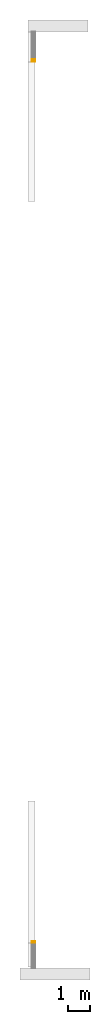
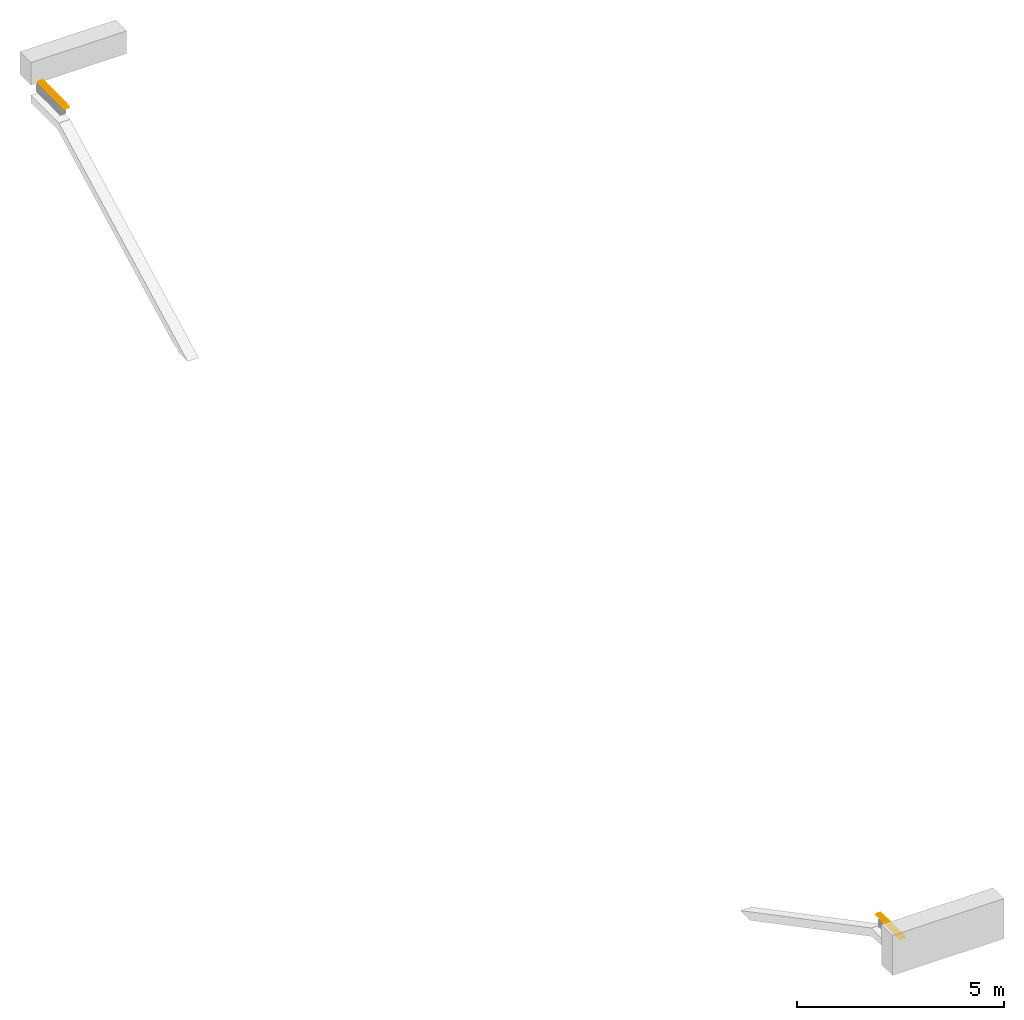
# One storey, part 3 of 3: 1 covering.
"""IFC2X3 building model written with IfcOpenShell, lengths in millimetres."""

from ifc_helpers import new_model, entity, si_unit, converted_unit, derived_unit, direction, frame, frame_2d, origin, place, context, subcontext, project, spatial, rectangle, extrude, material, layer, layer_set, layer_usage, type_object, element, save


model = new_model("IFC2X3")

# Units and contexts
model_context = context("Model", 3, precision=0.01, world=origin(), true_north=direction((6.123031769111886e-17, 1.0)))
body_context = subcontext(model_context, "Body", "Model", "MODEL_VIEW")
ifc_project = project(units=[si_unit("LENGTHUNIT", "METRE", prefix="MILLI"), si_unit("AREAUNIT", "SQUARE_METRE"), si_unit("VOLUMEUNIT", "CUBIC_METRE"), converted_unit("PLANEANGLEUNIT", "DEGREE", entity("IfcPlaneAngleMeasure", 0.017453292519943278), si_unit("PLANEANGLEUNIT", "RADIAN"), dimensions=[0, 0, 0, 0, 0, 0, 0]), si_unit("MASSUNIT", "GRAM", prefix="KILO"), derived_unit("MASSDENSITYUNIT", [(si_unit("MASSUNIT", "GRAM", prefix="KILO"), 1), (si_unit("LENGTHUNIT", "METRE"), -3)]), derived_unit("IONCONCENTRATIONUNIT", [(si_unit("MASSUNIT", "GRAM", prefix="KILO"), 1), (si_unit("LENGTHUNIT", "METRE"), -3)]), derived_unit("MOMENTOFINERTIAUNIT", [(si_unit("LENGTHUNIT", "METRE"), 4)]), si_unit("TIMEUNIT", "SECOND"), si_unit("FREQUENCYUNIT", "HERTZ"), si_unit("THERMODYNAMICTEMPERATUREUNIT", "DEGREE_CELSIUS"), derived_unit("THERMALTRANSMITTANCEUNIT", [(si_unit("MASSUNIT", "GRAM", prefix="KILO"), 1), (si_unit("THERMODYNAMICTEMPERATUREUNIT", "KELVIN"), -1), (si_unit("TIMEUNIT", "SECOND"), -3)]), derived_unit("THERMALCONDUCTANCEUNIT", [(si_unit("MASSUNIT", "GRAM", prefix="KILO"), 1), (si_unit("THERMODYNAMICTEMPERATUREUNIT", "KELVIN"), -1), (si_unit("TIMEUNIT", "SECOND"), -3), (si_unit("LENGTHUNIT", "METRE"), 1)]), derived_unit("VOLUMETRICFLOWRATEUNIT", [(si_unit("LENGTHUNIT", "METRE", prefix="DECI"), 3), (si_unit("TIMEUNIT", "SECOND"), -1)]), derived_unit("MASSFLOWRATEUNIT", [(si_unit("MASSUNIT", "GRAM", prefix="KILO"), 1), (si_unit("TIMEUNIT", "SECOND"), -1)]), derived_unit("ROTATIONALFREQUENCYUNIT", [(si_unit("TIMEUNIT", "SECOND"), -1)]), si_unit("ELECTRICCURRENTUNIT", "AMPERE"), si_unit("ELECTRICVOLTAGEUNIT", "VOLT"), si_unit("POWERUNIT", "WATT"), si_unit("FORCEUNIT", "NEWTON", prefix="KILO"), si_unit("ILLUMINANCEUNIT", "LUX"), si_unit("LUMINOUSFLUXUNIT", "LUMEN"), si_unit("LUMINOUSINTENSITYUNIT", "CANDELA"), si_unit("ENERGYUNIT", "JOULE"), derived_unit("USERDEFINED", [(si_unit("MASSUNIT", "GRAM", prefix="KILO"), -1), (si_unit("LENGTHUNIT", "METRE"), -2), (si_unit("TIMEUNIT", "SECOND"), 3), (si_unit("LUMINOUSFLUXUNIT", "LUMEN"), 1)]), derived_unit("USERDEFINED", [(si_unit("MASSUNIT", "GRAM", prefix="KILO"), 1), (si_unit("TIMEUNIT", "SECOND"), -3), (si_unit("LENGTHUNIT", "METRE"), 3), (si_unit("ELECTRICCURRENTUNIT", "AMPERE"), -2)]), derived_unit("SOUNDPOWERUNIT", [(si_unit("MASSUNIT", "GRAM", prefix="KILO"), 1), (si_unit("TIMEUNIT", "SECOND"), -3), (si_unit("LENGTHUNIT", "METRE"), 2)]), derived_unit("SOUNDPRESSUREUNIT", [(si_unit("MASSUNIT", "GRAM", prefix="KILO"), 1), (si_unit("LENGTHUNIT", "METRE"), -1), (si_unit("TIMEUNIT", "SECOND"), -2)]), derived_unit("LINEARVELOCITYUNIT", [(si_unit("LENGTHUNIT", "METRE"), 1), (si_unit("TIMEUNIT", "SECOND"), -1)]), si_unit("PRESSUREUNIT", "PASCAL"), derived_unit("USERDEFINED", [(si_unit("MASSUNIT", "GRAM", prefix="KILO"), 1), (si_unit("LENGTHUNIT", "METRE"), -2), (si_unit("TIMEUNIT", "SECOND"), -2)]), derived_unit("LINEARFORCEUNIT", [(si_unit("MASSUNIT", "GRAM", prefix="KILO"), 1), (si_unit("TIMEUNIT", "SECOND"), -2)]), derived_unit("PLANARFORCEUNIT", [(si_unit("MASSUNIT", "GRAM", prefix="KILO"), 1), (si_unit("LENGTHUNIT", "METRE"), -1), (si_unit("TIMEUNIT", "SECOND"), -2)]), derived_unit("SPECIFICHEATCAPACITYUNIT", [(si_unit("THERMODYNAMICTEMPERATUREUNIT", "KELVIN"), -1), (si_unit("LENGTHUNIT", "METRE"), 2), (si_unit("TIMEUNIT", "SECOND"), -2)]), derived_unit("HEATFLUXDENSITYUNIT", [(si_unit("MASSUNIT", "GRAM", prefix="KILO"), 1), (si_unit("TIMEUNIT", "SECOND"), -3)]), derived_unit("HEATINGVALUEUNIT", [(si_unit("LENGTHUNIT", "METRE"), 2), (si_unit("TIMEUNIT", "SECOND"), -2)]), derived_unit("VAPORPERMEABILITYUNIT", [(si_unit("LENGTHUNIT", "METRE"), -1), (si_unit("TIMEUNIT", "SECOND"), 1)]), derived_unit("DYNAMICVISCOSITYUNIT", [(si_unit("MASSUNIT", "GRAM", prefix="KILO"), 1), (si_unit("TIMEUNIT", "SECOND"), -1), (si_unit("LENGTHUNIT", "METRE"), -1)]), derived_unit("THERMALEXPANSIONCOEFFICIENTUNIT", [(si_unit("THERMODYNAMICTEMPERATUREUNIT", "KELVIN"), -1)]), derived_unit("MODULUSOFELASTICITYUNIT", [(si_unit("MASSUNIT", "GRAM", prefix="KILO"), 1), (si_unit("LENGTHUNIT", "METRE"), -1), (si_unit("TIMEUNIT", "SECOND"), -2)]), derived_unit("ISOTHERMALMOISTURECAPACITYUNIT", [(si_unit("MASSUNIT", "GRAM", prefix="KILO"), -1), (si_unit("LENGTHUNIT", "METRE"), 3)]), derived_unit("MOISTUREDIFFUSIVITYUNIT", [(si_unit("TIMEUNIT", "SECOND"), -1), (si_unit("LENGTHUNIT", "METRE"), 2)]), derived_unit("MASSPERLENGTHUNIT", [(si_unit("MASSUNIT", "GRAM", prefix="KILO"), 1), (si_unit("LENGTHUNIT", "METRE"), -1)]), derived_unit("THERMALRESISTANCEUNIT", [(si_unit("MASSUNIT", "GRAM", prefix="KILO"), -1), (si_unit("TIMEUNIT", "SECOND"), 3), (si_unit("THERMODYNAMICTEMPERATUREUNIT", "KELVIN"), 1)]), derived_unit("ACCELERATIONUNIT", [(si_unit("LENGTHUNIT", "METRE"), 1), (si_unit("TIMEUNIT", "SECOND"), -2)]), derived_unit("ANGULARVELOCITYUNIT", [(si_unit("TIMEUNIT", "SECOND"), -1), (si_unit("PLANEANGLEUNIT", "RADIAN"), 1)]), derived_unit("LINEARSTIFFNESSUNIT", [(si_unit("MASSUNIT", "GRAM", prefix="KILO"), 1), (si_unit("TIMEUNIT", "SECOND"), -2)]), derived_unit("WARPINGCONSTANTUNIT", [(si_unit("LENGTHUNIT", "METRE"), 6)]), derived_unit("LINEARMOMENTUNIT", [(si_unit("MASSUNIT", "GRAM", prefix="KILO"), 1), (si_unit("LENGTHUNIT", "METRE"), 1), (si_unit("TIMEUNIT", "SECOND"), -2)]), derived_unit("TORQUEUNIT", [(si_unit("MASSUNIT", "GRAM", prefix="KILO"), 1), (si_unit("LENGTHUNIT", "METRE"), 2), (si_unit("TIMEUNIT", "SECOND"), -2)])], contexts=[model_context])

# Site, building, storey
site_placement = place(None, origin())
site = spatial("IfcSite", under=ifc_project, at=site_placement, Name="Default", CompositionType="ELEMENT")
building_placement = place(site_placement, origin())
building = spatial("IfcBuilding", under=site, at=building_placement, Name="Eesti Rahvusraamatukogu hoone renoveerimise projekteerimistööd", CompositionType="ELEMENT")
storey_placement = place(building_placement, frame((0.0, 0.0, 14850.000000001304)))
storey = spatial("IfcBuildingStorey", under=building, at=storey_placement, Name="5. korrus", CompositionType="ELEMENT", Elevation=14850.000000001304)

# Covering
ifc_material = material(Name="EST. Betoonplaat hele")
ifc_layer = layer(ifc_material, 20.0)
ifc_layer_set = layer_set([ifc_layer], Name="Basic Roof:TV-01 plaat 2 (hele)")
ifc_layer_usage = layer_usage(ifc_layer_set, "AXIS3", "NEGATIVE", 0.0)
covering_type = type_object("IfcCoveringType", Name="Basic Roof:TV-01 plaat 2 (hele)", PredefinedType="NOTDEFINED")
covering_placement = place(storey_placement, frame((-31750.0, 6530.0, 220.0)))
element("IfcCovering", 1, at=covering_placement, inside=storey, type_object=covering_type, material=ifc_layer_usage, Name="Basic Roof:TV-01 plaat 2 (hele)", ObjectType="Basic Roof:TV-01 plaat 2 (hele)", PredefinedType="NOTDEFINED", context=body_context, shape_type="SweptSolid", body=[
    extrude(rectangle(XDim=1203.9999999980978, YDim=140.18156877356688, at=frame_2d((-1.0800249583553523e-12, -2.1671553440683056e-12), x_axis=(1.0, 0.0))), frame((70.09078438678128, 602.0, 0.0), z_axis=(0.0, 0.0, 1.0), x_axis=(0.0, 1.0, 0.0)), (0.0, 0.0, 1.0), 19.999999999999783),
    extrude(rectangle(XDim=1323.999999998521, YDim=140.18156877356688, at=frame_2d((0.0, -4.334310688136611e-12), x_axis=(1.0, 0.0))), frame((70.09078438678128, 41058.0, 0.0), z_axis=(0.0, 0.0, 1.0), x_axis=(0.0, 1.0, 0.0)), (0.0, 0.0, 1.0), 19.999999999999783),
])

save(model, "model.ifc")
